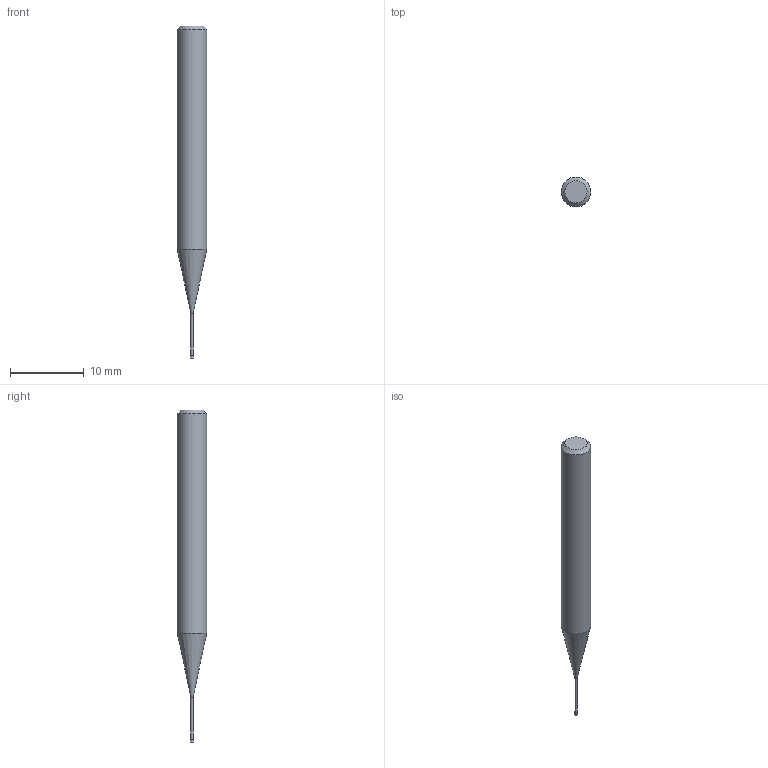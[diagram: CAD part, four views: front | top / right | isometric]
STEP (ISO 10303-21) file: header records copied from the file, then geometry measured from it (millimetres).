
FILE_DESCRIPTION((''),'2;1');
FILE_NAME('C:\Users\nsx150\AppData\Local\Temp\Mastercam 2021\17T8Q8S9EB\TEMP.step','2021-04-21T14:23:49',(''),(''),'STEP Write','Mastercam 2021 ... CNC Software, Inc.','');
FILE_SCHEMA(('AUTOMOTIVE_DESIGN'));
Length unit declared in the file: millimetre
Products named in the file (1): None
Bounding box: 4 x 4 x 45 mm (x, y, z)
Volume: 418.5 mm3; surface area: 454.3 mm2
Topology: 2 solids, 2 shells, 9 faces, 12 edges, 7 vertices
Faces by surface type: plane 4, cylinder 3, cone 2
Full cylindrical faces by diameter (mm): 0.28 x1, 0.3 x1, 4 x1
Entity records: 211 total; most frequent: DIRECTION 36, CARTESIAN_POINT 25, AXIS2_PLACEMENT_3D 18, ORIENTED_EDGE 14, EDGE_LOOP 14, STYLED_ITEM 12, ADVANCED_FACE 9, FACE_BOUND 8
